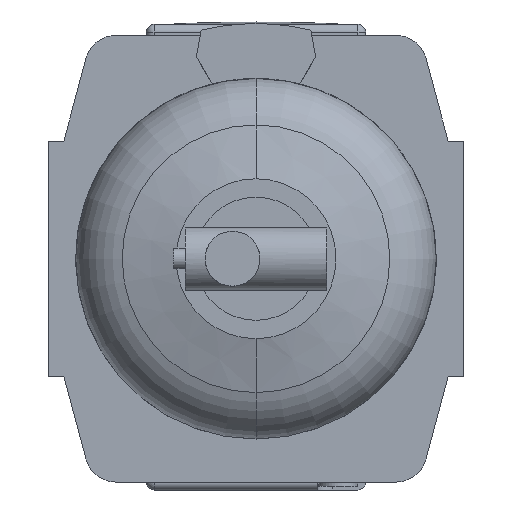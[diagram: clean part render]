
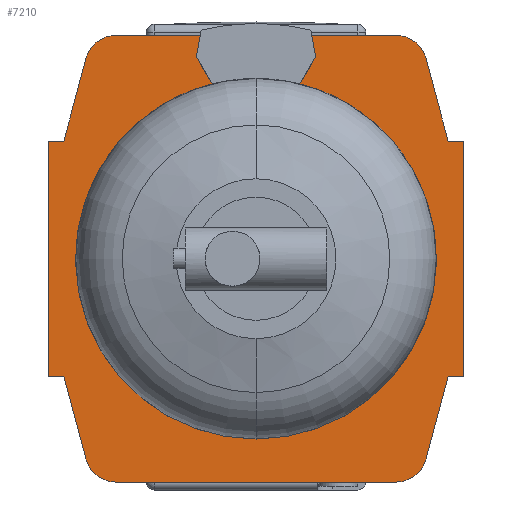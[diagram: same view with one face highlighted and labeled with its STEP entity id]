
A CAD part, front view. The second image highlights one B-rep face of the part: STEP entity #7210.
In plain terms, the highlighted planar face has unit normal (0, -1, 0).
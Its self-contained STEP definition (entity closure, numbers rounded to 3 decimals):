
#78 = DIRECTION ( 'NONE',  ( 0., 0., -1. ) ) ;
#143 = VECTOR ( 'NONE', #1087, 1000. ) ;
#225 = VECTOR ( 'NONE', #1148, 1000. ) ;
#243 = DIRECTION ( 'NONE',  ( 1., 0., 0. ) ) ;
#341 = CARTESIAN_POINT ( 'NONE',  ( -21.694, -31.8, 25.535 ) ) ;
#356 = VECTOR ( 'NONE', #6667, 1000. ) ;
#374 = VERTEX_POINT ( 'NONE', #2130 ) ;
#417 = EDGE_CURVE ( 'NONE', #2225, #6058, #7840, .T. ) ;
#429 = LINE ( 'NONE', #4819, #4996 ) ;
#482 = DIRECTION ( 'NONE',  ( 0., 0., -1. ) ) ;
#534 = AXIS2_PLACEMENT_3D ( 'NONE', #8170, #6692, #3212 ) ;
#550 = VERTEX_POINT ( 'NONE', #2177 ) ;
#564 = EDGE_CURVE ( 'NONE', #8427, #1747, #7804, .T. ) ;
#576 = ORIENTED_EDGE ( 'NONE', *, *, #2270, .F. ) ;
#796 = CARTESIAN_POINT ( 'NONE',  ( 20.9, -31.8, 28.5 ) ) ;
#888 = CARTESIAN_POINT ( 'NONE',  ( 24.517, -31.8, -15. ) ) ;
#900 = EDGE_CURVE ( 'NONE', #1927, #4008, #7501, .T. ) ;
#1047 = VECTOR ( 'NONE', #6383, 1000. ) ;
#1087 = DIRECTION ( 'NONE',  ( -1., 0., 0. ) ) ;
#1148 = DIRECTION ( 'NONE',  ( -0.259, 0., -0.966 ) ) ;
#1164 = LINE ( 'NONE', #9058, #5734 ) ;
#1371 = CARTESIAN_POINT ( 'NONE',  ( -26.5, -31.8, -15. ) ) ;
#1442 = CARTESIAN_POINT ( 'NONE',  ( 24.517, -31.8, 15. ) ) ;
#1515 = CARTESIAN_POINT ( 'NONE',  ( -20.9, -31.8, 28.5 ) ) ;
#1637 = CARTESIAN_POINT ( 'NONE',  ( -32.556, -31.8, 15. ) ) ;
#1648 = ORIENTED_EDGE ( 'NONE', *, *, #3319, .F. ) ;
#1728 = VERTEX_POINT ( 'NONE', #8707 ) ;
#1747 = VERTEX_POINT ( 'NONE', #5827 ) ;
#1857 = CARTESIAN_POINT ( 'NONE',  ( 20.9, -31.8, -28.5 ) ) ;
#1900 = LINE ( 'NONE', #1857, #225 ) ;
#1927 = VERTEX_POINT ( 'NONE', #9009 ) ;
#1968 = AXIS2_PLACEMENT_3D ( 'NONE', #3116, #8178, #2546 ) ;
#2130 = CARTESIAN_POINT ( 'NONE',  ( 21.694, -31.8, -25.535 ) ) ;
#2177 = CARTESIAN_POINT ( 'NONE',  ( -26.5, -31.8, 15. ) ) ;
#2225 = VERTEX_POINT ( 'NONE', #6095 ) ;
#2270 = EDGE_CURVE ( 'NONE', #4381, #374, #1900, .T. ) ;
#2357 = ORIENTED_EDGE ( 'NONE', *, *, #6219, .F. ) ;
#2546 = DIRECTION ( 'NONE',  ( 0., 0., -1. ) ) ;
#2731 = DIRECTION ( 'NONE',  ( 1., 0., 0. ) ) ;
#2848 = VECTOR ( 'NONE', #8401, 1000. ) ;
#2899 = VERTEX_POINT ( 'NONE', #1371 ) ;
#2957 = CARTESIAN_POINT ( 'NONE',  ( 26.5, -31.8, -15. ) ) ;
#2974 = DIRECTION ( 'NONE',  ( 0., -1., 0. ) ) ;
#3116 = CARTESIAN_POINT ( 'NONE',  ( -17.831, -31.8, 24.5 ) ) ;
#3173 = EDGE_CURVE ( 'NONE', #4912, #4381, #3450, .T. ) ;
#3212 = DIRECTION ( 'NONE',  ( 0., 0., -1. ) ) ;
#3230 = DIRECTION ( 'NONE',  ( 0., -1., 0. ) ) ;
#3319 = EDGE_CURVE ( 'NONE', #1927, #8427, #3670, .T. ) ;
#3354 = LINE ( 'NONE', #2957, #4321 ) ;
#3388 = VECTOR ( 'NONE', #243, 1000. ) ;
#3450 = LINE ( 'NONE', #6942, #1047 ) ;
#3592 = DIRECTION ( 'NONE',  ( 0.259, 0., 0.966 ) ) ;
#3670 = LINE ( 'NONE', #796, #6544 ) ;
#3673 = LINE ( 'NONE', #5820, #356 ) ;
#3875 = CARTESIAN_POINT ( 'NONE',  ( 17.831, -31.8, -24.5 ) ) ;
#4008 = VERTEX_POINT ( 'NONE', #6395 ) ;
#4026 = ORIENTED_EDGE ( 'NONE', *, *, #5348, .F. ) ;
#4035 = AXIS2_PLACEMENT_3D ( 'NONE', #3875, #3230, #5274 ) ;
#4064 = ORIENTED_EDGE ( 'NONE', *, *, #5985, .T. ) ;
#4163 = ORIENTED_EDGE ( 'NONE', *, *, #9103, .F. ) ;
#4315 = ORIENTED_EDGE ( 'NONE', *, *, #900, .T. ) ;
#4321 = VECTOR ( 'NONE', #78, 1000. ) ;
#4381 = VERTEX_POINT ( 'NONE', #888 ) ;
#4408 = ORIENTED_EDGE ( 'NONE', *, *, #3173, .F. ) ;
#4698 = EDGE_CURVE ( 'NONE', #1728, #374, #8050, .T. ) ;
#4768 = CARTESIAN_POINT ( 'NONE',  ( -17.831, -31.8, -28.5 ) ) ;
#4795 = AXIS2_PLACEMENT_3D ( 'NONE', #1637, #2974, #7250 ) ;
#4819 = CARTESIAN_POINT ( 'NONE',  ( -20.9, -31.8, -28.5 ) ) ;
#4912 = VERTEX_POINT ( 'NONE', #7024 ) ;
#4956 = EDGE_CURVE ( 'NONE', #5297, #2899, #9020, .T. ) ;
#4976 = DIRECTION ( 'NONE',  ( 0.259, 0., -0.966 ) ) ;
#4996 = VECTOR ( 'NONE', #6796, 1000. ) ;
#5052 = CARTESIAN_POINT ( 'NONE',  ( -21.694, -31.8, -25.535 ) ) ;
#5082 = VECTOR ( 'NONE', #3592, 1000. ) ;
#5097 = ORIENTED_EDGE ( 'NONE', *, *, #8688, .F. ) ;
#5156 = LINE ( 'NONE', #5204, #3388 ) ;
#5159 = ORIENTED_EDGE ( 'NONE', *, *, #4698, .T. ) ;
#5204 = CARTESIAN_POINT ( 'NONE',  ( 20.9, -31.8, 28.5 ) ) ;
#5271 = ORIENTED_EDGE ( 'NONE', *, *, #4956, .F. ) ;
#5274 = DIRECTION ( 'NONE',  ( 0., 0., -1. ) ) ;
#5297 = VERTEX_POINT ( 'NONE', #7184 ) ;
#5326 = LINE ( 'NONE', #8158, #143 ) ;
#5348 = EDGE_CURVE ( 'NONE', #1747, #4912, #3354, .T. ) ;
#5459 = ORIENTED_EDGE ( 'NONE', *, *, #5821, .F. ) ;
#5499 = VERTEX_POINT ( 'NONE', #8516 ) ;
#5563 = ORIENTED_EDGE ( 'NONE', *, *, #564, .F. ) ;
#5617 = AXIS2_PLACEMENT_3D ( 'NONE', #6107, #6839, #482 ) ;
#5675 = CARTESIAN_POINT ( 'NONE',  ( -24.517, -31.8, -15. ) ) ;
#5734 = VECTOR ( 'NONE', #2731, 1000. ) ;
#5820 = CARTESIAN_POINT ( 'NONE',  ( -26.5, -31.8, -15. ) ) ;
#5821 = EDGE_CURVE ( 'NONE', #1728, #7829, #5326, .T. ) ;
#5827 = CARTESIAN_POINT ( 'NONE',  ( 26.5, -31.8, 15. ) ) ;
#5985 = EDGE_CURVE ( 'NONE', #7665, #7829, #6364, .T. ) ;
#6058 = VERTEX_POINT ( 'NONE', #341 ) ;
#6095 = CARTESIAN_POINT ( 'NONE',  ( -24.517, -31.8, 15. ) ) ;
#6107 = CARTESIAN_POINT ( 'NONE',  ( -17.831, -31.8, -24.5 ) ) ;
#6219 = EDGE_CURVE ( 'NONE', #5499, #4008, #5156, .T. ) ;
#6364 = CIRCLE ( 'NONE', #5617, 4. ) ;
#6368 = EDGE_CURVE ( 'NONE', #5499, #6058, #6426, .T. ) ;
#6383 = DIRECTION ( 'NONE',  ( -1., 0., 0. ) ) ;
#6395 = CARTESIAN_POINT ( 'NONE',  ( 17.831, -31.8, 28.5 ) ) ;
#6426 = CIRCLE ( 'NONE', #1968, 4. ) ;
#6544 = VECTOR ( 'NONE', #4976, 1000. ) ;
#6612 = PLANE ( 'NONE',  #4795 ) ;
#6667 = DIRECTION ( 'NONE',  ( 0., 0., 1. ) ) ;
#6692 = DIRECTION ( 'NONE',  ( 0., -1., 0. ) ) ;
#6760 = ORIENTED_EDGE ( 'NONE', *, *, #6368, .T. ) ;
#6796 = DIRECTION ( 'NONE',  ( -0.259, 0., 0.966 ) ) ;
#6839 = DIRECTION ( 'NONE',  ( 0., -1., 0. ) ) ;
#6932 = EDGE_CURVE ( 'NONE', #2899, #550, #3673, .T. ) ;
#6942 = CARTESIAN_POINT ( 'NONE',  ( 24.517, -31.8, -15. ) ) ;
#6981 = DIRECTION ( 'NONE',  ( -1., 0., 0. ) ) ;
#7024 = CARTESIAN_POINT ( 'NONE',  ( 26.5, -31.8, -15. ) ) ;
#7032 = CARTESIAN_POINT ( 'NONE',  ( 24.517, -31.8, 15. ) ) ;
#7152 = ORIENTED_EDGE ( 'NONE', *, *, #6932, .F. ) ;
#7184 = CARTESIAN_POINT ( 'NONE',  ( -24.517, -31.8, -15. ) ) ;
#7210 = ADVANCED_FACE ( 'NONE', ( #8006 ), #6612, .T. ) ;
#7250 = DIRECTION ( 'NONE',  ( 0., 0., -1. ) ) ;
#7462 = VECTOR ( 'NONE', #6981, 1000. ) ;
#7501 = CIRCLE ( 'NONE', #534, 4. ) ;
#7640 = EDGE_LOOP ( 'NONE', ( #2357, #6760, #8925, #5097, #7152, #5271, #4163, #4064, #5459, #5159, #576, #4408, #4026, #5563, #1648, #4315 ) ) ;
#7665 = VERTEX_POINT ( 'NONE', #5052 ) ;
#7804 = LINE ( 'NONE', #1442, #2848 ) ;
#7829 = VERTEX_POINT ( 'NONE', #4768 ) ;
#7840 = LINE ( 'NONE', #1515, #5082 ) ;
#8006 = FACE_OUTER_BOUND ( 'NONE', #7640, .T. ) ;
#8050 = CIRCLE ( 'NONE', #4035, 4. ) ;
#8158 = CARTESIAN_POINT ( 'NONE',  ( 20.9, -31.8, -28.5 ) ) ;
#8170 = CARTESIAN_POINT ( 'NONE',  ( 17.831, -31.8, 24.5 ) ) ;
#8178 = DIRECTION ( 'NONE',  ( 0., -1., 0. ) ) ;
#8401 = DIRECTION ( 'NONE',  ( 1., 0., 0. ) ) ;
#8427 = VERTEX_POINT ( 'NONE', #7032 ) ;
#8516 = CARTESIAN_POINT ( 'NONE',  ( -17.831, -31.8, 28.5 ) ) ;
#8688 = EDGE_CURVE ( 'NONE', #550, #2225, #1164, .T. ) ;
#8707 = CARTESIAN_POINT ( 'NONE',  ( 17.831, -31.8, -28.5 ) ) ;
#8925 = ORIENTED_EDGE ( 'NONE', *, *, #417, .F. ) ;
#9009 = CARTESIAN_POINT ( 'NONE',  ( 21.694, -31.8, 25.535 ) ) ;
#9020 = LINE ( 'NONE', #5675, #7462 ) ;
#9058 = CARTESIAN_POINT ( 'NONE',  ( -24.517, -31.8, 15. ) ) ;
#9103 = EDGE_CURVE ( 'NONE', #7665, #5297, #429, .T. ) ;
